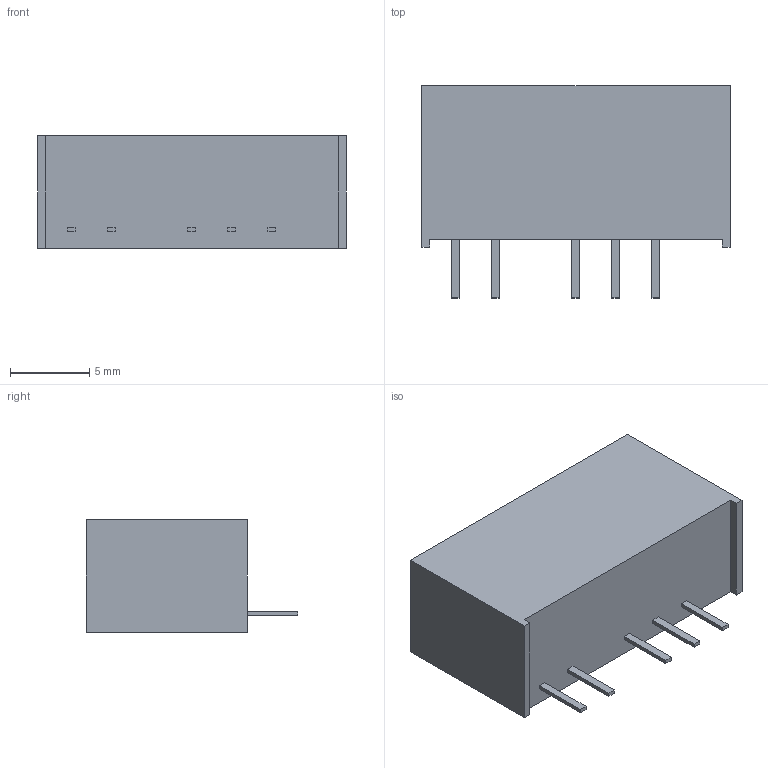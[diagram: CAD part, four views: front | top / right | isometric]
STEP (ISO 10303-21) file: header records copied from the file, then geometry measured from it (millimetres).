
FILE_DESCRIPTION (( 'STEP AP203' ), '1' );
FILE_NAME ('TMA Dual Output 15+24VIN.STEP', '2020-11-20T00:52:51', ( '' ), ( '' ), 'SwSTEP 2.0', 'SolidWorks 2020', '' );
FILE_SCHEMA (( 'CONFIG_CONTROL_DESIGN' ));
Length unit declared in the file: millimetre
Products named in the file (1): TMA Dual Output 15+24VIN
Bounding box: 19.5 x 13.4 x 7.1 mm (x, y, z)
Volume: 1348.8 mm3; surface area: 835.9 mm2
Topology: 1 solids, 1 shells, 35 faces, 84 edges, 56 vertices
Faces by surface type: plane 35
Entity records: 1075 total; most frequent: CARTESIAN_POINT 176, ORIENTED_EDGE 168, DIRECTION 156, VECTOR 84, EDGE_CURVE 84, LINE 84, VERTEX_POINT 56, EDGE_LOOP 40
